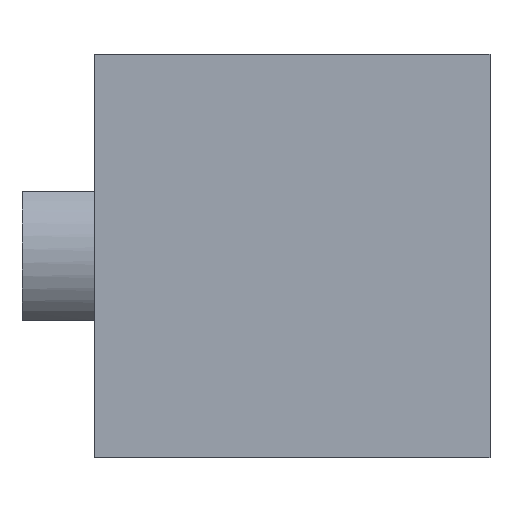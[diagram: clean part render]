
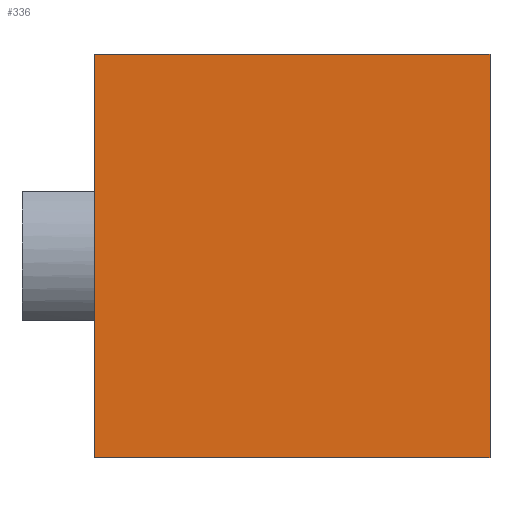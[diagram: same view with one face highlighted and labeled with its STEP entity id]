
A CAD part, front view. The second image highlights one B-rep face of the part: STEP entity #336.
In plain terms, the highlighted planar face has unit normal (0, -1, 0).
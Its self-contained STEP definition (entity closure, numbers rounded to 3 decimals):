
#18 = ORIENTED_EDGE ( 'NONE', *, *, #616, .T. ) ;
#30 = CARTESIAN_POINT ( 'NONE',  ( 24.5, -21., -12.5 ) ) ;
#209 = LINE ( 'NONE', #2219, #2725 ) ;
#336 = ADVANCED_FACE ( 'NONE', ( #1680 ), #3239, .T. ) ;
#494 = LINE ( 'NONE', #994, #2234 ) ;
#573 = VECTOR ( 'NONE', #2381, 1000. ) ;
#616 = EDGE_CURVE ( 'NONE', #1808, #714, #1084, .T. ) ;
#619 = VERTEX_POINT ( 'NONE', #1267 ) ;
#714 = VERTEX_POINT ( 'NONE', #2314 ) ;
#815 = EDGE_CURVE ( 'NONE', #714, #619, #1599, .T. ) ;
#993 = DIRECTION ( 'NONE',  ( 1., 0., 0. ) ) ;
#994 = CARTESIAN_POINT ( 'NONE',  ( 24.5, -21., -12.5 ) ) ;
#1084 = LINE ( 'NONE', #30, #1714 ) ;
#1230 = DIRECTION ( 'NONE',  ( 0., -1., 0. ) ) ;
#1266 = DIRECTION ( 'NONE',  ( -1., 0., 0. ) ) ;
#1267 = CARTESIAN_POINT ( 'NONE',  ( 0., -21., 12.5 ) ) ;
#1476 = CARTESIAN_POINT ( 'NONE',  ( 24.5, -21., -12.5 ) ) ;
#1486 = EDGE_LOOP ( 'NONE', ( #2817, #3206, #18, #1516 ) ) ;
#1516 = ORIENTED_EDGE ( 'NONE', *, *, #815, .T. ) ;
#1599 = LINE ( 'NONE', #3181, #573 ) ;
#1680 = FACE_OUTER_BOUND ( 'NONE', #1486, .T. ) ;
#1714 = VECTOR ( 'NONE', #1807, 1000. ) ;
#1807 = DIRECTION ( 'NONE',  ( 0., 0., 1. ) ) ;
#1808 = VERTEX_POINT ( 'NONE', #2975 ) ;
#1885 = EDGE_CURVE ( 'NONE', #2624, #619, #209, .T. ) ;
#2103 = AXIS2_PLACEMENT_3D ( 'NONE', #1476, #1230, #993 ) ;
#2219 = CARTESIAN_POINT ( 'NONE',  ( 0., -21., -12.5 ) ) ;
#2234 = VECTOR ( 'NONE', #1266, 1000. ) ;
#2314 = CARTESIAN_POINT ( 'NONE',  ( 24.5, -21., 12.5 ) ) ;
#2381 = DIRECTION ( 'NONE',  ( -1., 0., 0. ) ) ;
#2593 = CARTESIAN_POINT ( 'NONE',  ( 0., -21., -12.5 ) ) ;
#2624 = VERTEX_POINT ( 'NONE', #2593 ) ;
#2725 = VECTOR ( 'NONE', #2761, 1000. ) ;
#2761 = DIRECTION ( 'NONE',  ( 0., 0., 1. ) ) ;
#2817 = ORIENTED_EDGE ( 'NONE', *, *, #1885, .F. ) ;
#2975 = CARTESIAN_POINT ( 'NONE',  ( 24.5, -21., -12.5 ) ) ;
#3028 = EDGE_CURVE ( 'NONE', #1808, #2624, #494, .T. ) ;
#3181 = CARTESIAN_POINT ( 'NONE',  ( 24.5, -21., 12.5 ) ) ;
#3206 = ORIENTED_EDGE ( 'NONE', *, *, #3028, .F. ) ;
#3239 = PLANE ( 'NONE',  #2103 ) ;
